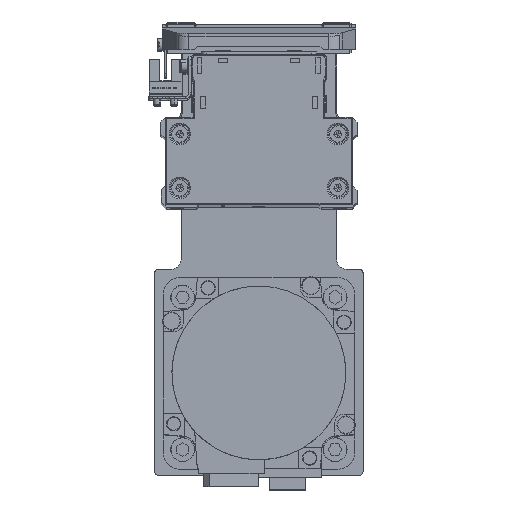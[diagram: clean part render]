
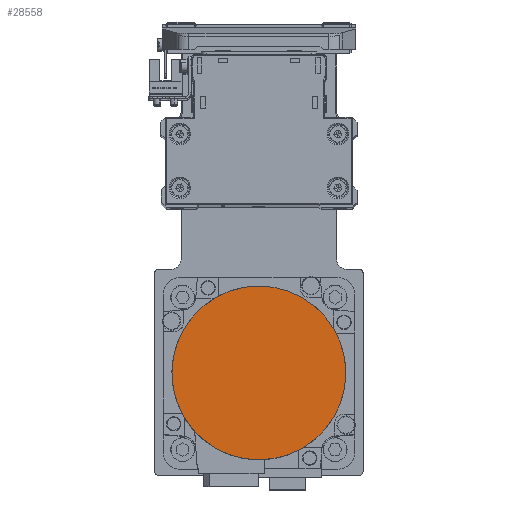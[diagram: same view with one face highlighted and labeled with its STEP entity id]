
A CAD part, top view. The second image highlights one B-rep face of the part: STEP entity #28558.
In plain terms, the highlighted planar face has unit normal (0, 0, 1) as drawn and (0, 0, -1) by its records, which use the part's own axes.
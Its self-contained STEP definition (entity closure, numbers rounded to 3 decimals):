
#2413 = EDGE_CURVE ( 'NONE', #6783, #31164, #11086, .T. ) ;
#4643 = AXIS2_PLACEMENT_3D ( 'NONE', #7975, #20126, #32268 ) ;
#6783 = VERTEX_POINT ( 'NONE', #13317 ) ;
#7898 = DIRECTION ( 'NONE',  ( 0., 0., 1. ) ) ;
#7975 = CARTESIAN_POINT ( 'NONE',  ( 0., 0., -122.2 ) ) ;
#9621 = CIRCLE ( 'NONE', #31893, 36.3 ) ;
#9811 = CARTESIAN_POINT ( 'NONE',  ( 0., 0., -122.2 ) ) ;
#11086 = CIRCLE ( 'NONE', #33316, 36.3 ) ;
#13317 = CARTESIAN_POINT ( 'NONE',  ( 0., -36.3, -122.2 ) ) ;
#18077 = ORIENTED_EDGE ( 'NONE', *, *, #2413, .F. ) ;
#20049 = DIRECTION ( 'NONE',  ( 0., -1., 0. ) ) ;
#20126 = DIRECTION ( 'NONE',  ( 0., 0., 1. ) ) ;
#21968 = DIRECTION ( 'NONE',  ( 0., 0., 1. ) ) ;
#23112 = FACE_OUTER_BOUND ( 'NONE', #37948, .T. ) ;
#25588 = CARTESIAN_POINT ( 'NONE',  ( 0., 36.3, -122.2 ) ) ;
#28558 = ADVANCED_FACE ( 'NONE', ( #23112 ), #35255, .F. ) ;
#31164 = VERTEX_POINT ( 'NONE', #25588 ) ;
#31893 = AXIS2_PLACEMENT_3D ( 'NONE', #9811, #21968, #34097 ) ;
#32268 = DIRECTION ( 'NONE',  ( 1., 0., 0. ) ) ;
#33316 = AXIS2_PLACEMENT_3D ( 'NONE', #35176, #7898, #20049 ) ;
#34097 = DIRECTION ( 'NONE',  ( 0., 1., 0. ) ) ;
#35176 = CARTESIAN_POINT ( 'NONE',  ( 0., 0., -122.2 ) ) ;
#35252 = ORIENTED_EDGE ( 'NONE', *, *, #35842, .F. ) ;
#35255 = PLANE ( 'NONE',  #4643 ) ;
#35842 = EDGE_CURVE ( 'NONE', #31164, #6783, #9621, .T. ) ;
#37948 = EDGE_LOOP ( 'NONE', ( #35252, #18077 ) ) ;
